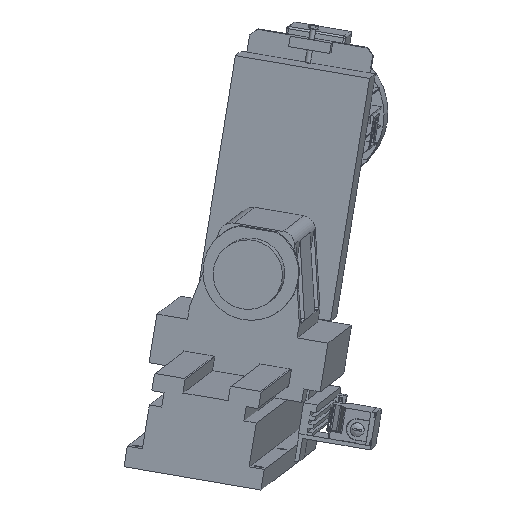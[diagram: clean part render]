
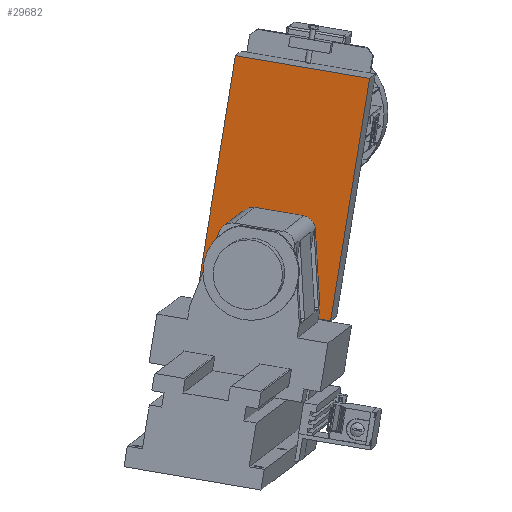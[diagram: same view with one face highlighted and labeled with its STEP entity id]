
A CAD part, front view. The second image highlights one B-rep face of the part: STEP entity #29682.
In plain terms, the highlighted planar face has unit normal (-0.106, -0.991, -0.08).
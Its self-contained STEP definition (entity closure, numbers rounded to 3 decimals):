
#27835=CARTESIAN_POINT('',(27.788,204.06,654.456));
#27836=VERTEX_POINT('',#27835);
#27843=CARTESIAN_POINT('',(30.155,202.617,669.197));
#27844=VERTEX_POINT('',#27843);
#27845=CARTESIAN_POINT('',(27.788,204.06,654.456));
#27846=DIRECTION('',(0.158,-0.096,0.983));
#27847=VECTOR('',#27846,15.);
#27848=LINE('',#27845,#27847);
#27849=EDGE_CURVE('',#27836,#27844,#27848,.T.);
#27987=CARTESIAN_POINT('',(23.337,194.087,783.77));
#27988=VERTEX_POINT('',#27987);
#27995=CARTESIAN_POINT('',(6.64,194.362,802.408));
#27996=VERTEX_POINT('',#27995);
#27997=CARTESIAN_POINT('',(3.485,196.286,782.753));
#27998=DIRECTION('',(-0.106,-0.991,-0.08));
#27999=DIRECTION('',(0.993,-0.11,0.051));
#28000=AXIS2_PLACEMENT_3D('',#27997,#27998,#27999);
#28001=CIRCLE('',#28000,20.0);
#28002=EDGE_CURVE('',#27988,#27996,#28001,.T.);
#28027=CARTESIAN_POINT('',(-63.023,200.835,814.227));
#28028=VERTEX_POINT('',#28027);
#28029=CARTESIAN_POINT('',(6.64,194.362,802.408));
#28030=DIRECTION('',(-0.982,0.091,0.167));
#28031=VECTOR('',#28030,70.955);
#28032=LINE('',#28029,#28031);
#28033=EDGE_CURVE('',#27996,#28028,#28032,.T.);
#28059=CARTESIAN_POINT('',(-84.661,204.123,802.093));
#28060=VERTEX_POINT('',#28059);
#28061=CARTESIAN_POINT('',(-66.179,202.76,794.572));
#28062=DIRECTION('',(-0.106,-0.991,-0.08));
#28063=DIRECTION('',(0.158,-0.096,0.983));
#28064=AXIS2_PLACEMENT_3D('',#28061,#28062,#28063);
#28065=CIRCLE('',#28064,20.0);
#28066=EDGE_CURVE('',#28028,#28060,#28065,.T.);
#28154=CARTESIAN_POINT('',(-126.933,217.215,695.848));
#28155=VERTEX_POINT('',#28154);
#28162=CARTESIAN_POINT('',(-129.3,218.659,681.107));
#28163=VERTEX_POINT('',#28162);
#28164=CARTESIAN_POINT('',(-126.933,217.215,695.848));
#28165=DIRECTION('',(-0.158,0.096,-0.983));
#28166=VECTOR('',#28165,15.);
#28167=LINE('',#28164,#28166);
#28168=EDGE_CURVE('',#28155,#28163,#28167,.T.);
#28201=CARTESIAN_POINT('',(30.155,202.617,669.197));
#28202=DIRECTION('',(-0.059,-0.074,0.995));
#28203=VECTOR('',#28202,115.092);
#28204=LINE('',#28201,#28203);
#28205=EDGE_CURVE('',#27844,#27988,#28204,.T.);
#28468=CARTESIAN_POINT('',(-84.661,204.123,802.093));
#28469=DIRECTION('',(-0.367,0.114,-0.923));
#28470=VECTOR('',#28469,115.092);
#28471=LINE('',#28468,#28470);
#28472=EDGE_CURVE('',#28060,#28155,#28471,.T.);
#29547=CARTESIAN_POINT('',(45.461,202.418,651.457));
#29548=VERTEX_POINT('',#29547);
#29549=CARTESIAN_POINT('',(45.461,202.418,651.457));
#29550=DIRECTION('',(-0.982,0.091,0.167));
#29551=VECTOR('',#29550,18.);
#29552=LINE('',#29549,#29551);
#29553=EDGE_CURVE('',#29548,#27836,#29552,.T.);
#29556=CARTESIAN_POINT('',(-146.972,220.301,684.105));
#29557=VERTEX_POINT('',#29556);
#29558=CARTESIAN_POINT('',(-129.3,218.659,681.107));
#29559=DIRECTION('',(-0.982,0.091,0.167));
#29560=VECTOR('',#29559,18.);
#29561=LINE('',#29558,#29560);
#29562=EDGE_CURVE('',#28163,#29557,#29561,.T.);
#29585=CARTESIAN_POINT('',(101.319,168.352,999.359));
#29586=VERTEX_POINT('',#29585);
#29587=CARTESIAN_POINT('',(101.319,168.352,999.359));
#29588=DIRECTION('',(-0.158,0.096,-0.983));
#29589=VECTOR('',#29588,354.0);
#29590=LINE('',#29587,#29589);
#29591=EDGE_CURVE('',#29586,#29548,#29590,.T.);
#29609=CARTESIAN_POINT('',(-91.114,186.235,1032.006));
#29610=VERTEX_POINT('',#29609);
#29611=CARTESIAN_POINT('',(-91.114,186.235,1032.006));
#29612=DIRECTION('',(0.982,-0.091,-0.167));
#29613=VECTOR('',#29612,196.);
#29614=LINE('',#29611,#29613);
#29615=EDGE_CURVE('',#29610,#29586,#29614,.T.);
#29651=CARTESIAN_POINT('',(-146.972,220.301,684.105));
#29652=DIRECTION('',(0.158,-0.096,0.983));
#29653=VECTOR('',#29652,354.);
#29654=LINE('',#29651,#29653);
#29655=EDGE_CURVE('',#29557,#29610,#29654,.T.);
#29663=CARTESIAN_POINT('',(-22.827,194.327,841.732));
#29664=DIRECTION('',(-0.106,-0.991,-0.08));
#29665=DIRECTION('',(0.982,-0.091,-0.167));
#29666=AXIS2_PLACEMENT_3D('',#29663,#29664,#29665);
#29667=PLANE('',#29666);
#29668=ORIENTED_EDGE('',*,*,#28168,.F.);
#29669=ORIENTED_EDGE('',*,*,#28472,.F.);
#29670=ORIENTED_EDGE('',*,*,#28066,.F.);
#29671=ORIENTED_EDGE('',*,*,#28033,.F.);
#29672=ORIENTED_EDGE('',*,*,#28002,.F.);
#29673=ORIENTED_EDGE('',*,*,#28205,.F.);
#29674=ORIENTED_EDGE('',*,*,#27849,.F.);
#29675=ORIENTED_EDGE('',*,*,#29553,.F.);
#29676=ORIENTED_EDGE('',*,*,#29591,.F.);
#29677=ORIENTED_EDGE('',*,*,#29615,.F.);
#29678=ORIENTED_EDGE('',*,*,#29655,.F.);
#29679=ORIENTED_EDGE('',*,*,#29562,.F.);
#29680=EDGE_LOOP('',(#29668,#29669,#29670,#29671,#29672,#29673,#29674,#29675,#29676,#29677,#29678,#29679));
#29681=FACE_OUTER_BOUND('',#29680,.T.);
#29682=ADVANCED_FACE('',(#29681),#29667,.T.);
